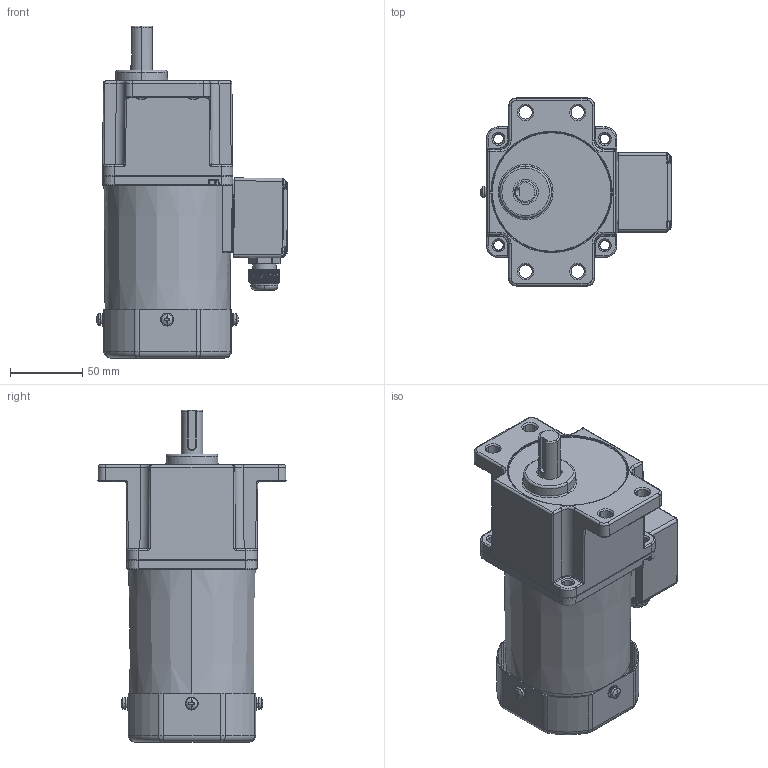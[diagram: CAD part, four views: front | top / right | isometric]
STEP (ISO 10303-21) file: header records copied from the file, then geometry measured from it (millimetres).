
FILE_DESCRIPTION (( 'STEP AP203' ), '1' );
FILE_NAME ('5IK60GU-CFT(5GU3K-200K).STEP', '2023-08-08T05:59:20', ( 'Windows User' ), ( 'P R C' ), 'SwSTEP 2.0', 'SolidWorks 2019', '' );
FILE_SCHEMA (( 'CONFIG_CONTROL_DESIGN' ));
Length unit declared in the file: millimetre
Products named in the file (18): 5GU3K-200K^5IK60GU-CFT(5GU3K-200K)(2)_5IK60GU-CFT(5GU3K-200K); ^___5IK60GU-CFT(5GU3K-200K)(2)_5IK60GU-CFT(5GU3K-200K); 葩璃 (5) ^_____5IK60GU-CFT(5GU3K-200K)(2)_5IK60GU-CFT(5GU3K-200K); ^5GU3K-200K_5IK60GU-CFT(5GU3K-200K)(2)_5IK60GU-CFT(5GU3K-200K); 5IK60GU-CFT(5GU3K-200K)(2)^5IK60GU-CFT(5GU3K-200K); 葩璃 (2) ^_____5IK60GU-CFT(5GU3K-200K)(2)_5IK60GU-CFT(5GU3K-200K); ^_5IK60GU-CFT(5GU3K-200K)(2)_5IK60GU-CFT(5GU3K-200K); 葩璃 (4) ^_____5IK60GU-CFT(5GU3K-200K)(2)_5IK60GU-CFT(5GU3K-200K); ^____5IK60GU-CFT(5GU3K-200K)(2)_5IK60GU-CFT(5GU3K-200K); 葩璃 (6) ^_____5IK60GU-CFT(5GU3K-200K)(2)_5IK60GU-CFT(5GU3K-200K); ^__5IK60GU-CFT(5GU3K-200K)(2)_5IK60GU-CFT(5GU3K-200K); 5IK60GU-CFT(5GU3K-200K); ^5IK60GU-CFT(5GU3K-200K)(2)_5IK60GU-CFT(5GU3K-200K); ^_____5IK60GU-CFT(5GU3K-200K)(2)_5IK60GU-CFT(5GU3K-200K); ^_5GU3K-200K_5IK60GU-CFT(5GU3K-200K)(2)_5IK60GU-CFT(5GU3K-200K); 葩璃 (3) ^_____5IK60GU-CFT(5GU3K-200K)(2)_5IK60GU-CFT(5GU3K-200K)
Assembly tree (17 placements, depth 8):
  5IK60GU-CFT(5GU3K-200K)
    5IK60GU-CFT(5GU3K-200K)(2)^5IK60GU-CFT(5GU3K-200K)
      ^5IK60GU-CFT(5GU3K-200K)(2)_5IK60GU-CFT(5GU3K-200K)
        ^_5IK60GU-CFT(5GU3K-200K)(2)_5IK60GU-CFT(5GU3K-200K)
          ^__5IK60GU-CFT(5GU3K-200K)(2)_5IK60GU-CFT(5GU3K-200K)
            ^___5IK60GU-CFT(5GU3K-200K)(2)_5IK60GU-CFT(5GU3K-200K)
              ^____5IK60GU-CFT(5GU3K-200K)(2)_5IK60GU-CFT(5GU3K-200K)
                ^_____5IK60GU-CFT(5GU3K-200K)(2)_5IK60GU-CFT(5GU3K-200K)
                葩璃 (2) ^_____5IK60GU-CFT(5GU3K-200K)(2)_5IK60GU-CFT(5GU3K-200K)
                葩璃 (3) ^_____5IK60GU-CFT(5GU3K-200K)(2)_5IK60GU-CFT(5GU3K-200K)
                葩璃 (4) ^_____5IK60GU-CFT(5GU3K-200K)(2)_5IK60GU-CFT(5GU3K-200K)
                葩璃 (5) ^_____5IK60GU-CFT(5GU3K-200K)(2)_5IK60GU-CFT(5GU3K-200K)
                葩璃 (6) ^_____5IK60GU-CFT(5GU3K-200K)(2)_5IK60GU-CFT(5GU3K-200K)
            ^___5IK60GU-CFT(5GU3K-200K)(2)_5IK60GU-CFT(5GU3K-200K)
          ^__5IK60GU-CFT(5GU3K-200K)(2)_5IK60GU-CFT(5GU3K-200K)
      5GU3K-200K^5IK60GU-CFT(5GU3K-200K)(2)_5IK60GU-CFT(5GU3K-200K)
        ^5GU3K-200K_5IK60GU-CFT(5GU3K-200K)(2)_5IK60GU-CFT(5GU3K-200K)
          ^_5GU3K-200K_5IK60GU-CFT(5GU3K-200K)(2)_5IK60GU-CFT(5GU3K-200K)
Bounding box: 132.2 x 129.97 x 229.5 mm (x, y, z)
Volume: 1278637.7 mm3; surface area: 148711.7 mm2
Topology: 21 solids, 21 shells, 1894 faces, 4772 edges, 2912 vertices
Faces by surface type: cylinder 737, cone 401, plane 394, bspline 159, torus 121, sphere 82
Entity records: 70398 total; most frequent: CARTESIAN_POINT 23756, DIRECTION 9661, ORIENTED_EDGE 9428, EDGE_CURVE 4714, AXIS2_PLACEMENT_3D 3966, VERTEX_POINT 2908, CIRCLE 2203, EDGE_LOOP 2008
